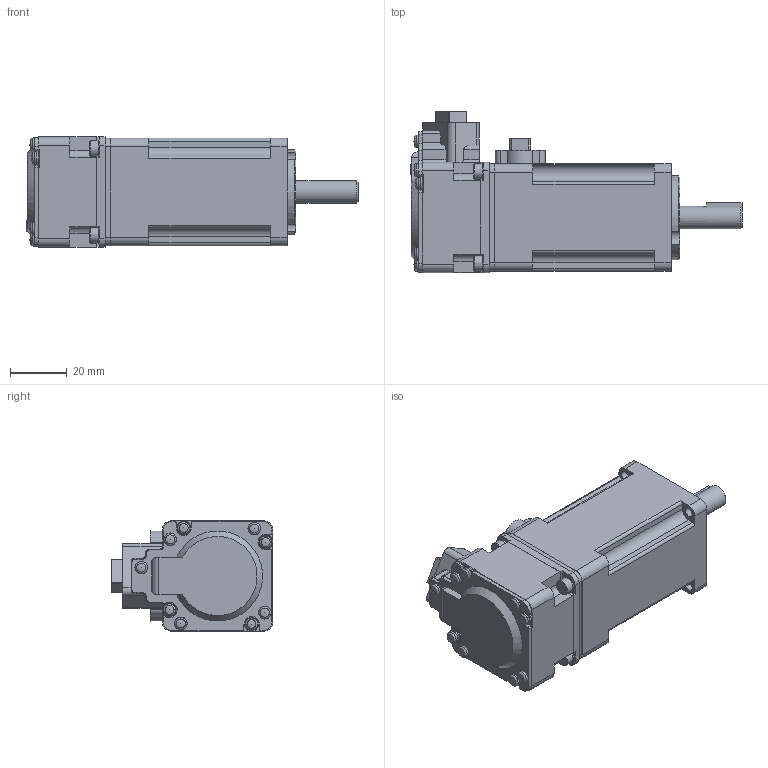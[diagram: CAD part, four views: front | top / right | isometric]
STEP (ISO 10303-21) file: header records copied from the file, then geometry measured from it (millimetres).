
FILE_DESCRIPTION( ( 'STEP AP214' ), ' ' );
FILE_NAME( 'p:/temp/worker_261/1028_4324/app_51_12016081613261447744796260eae72_000000_00_00_000000/format_0/MSMF012L1U1.stp', '2016-08-16T11:26:15', ( '' ), ( '' ), ' ', 'PARTsolutions', ' ' );
FILE_SCHEMA( ( 'AUTOMOTIVE_DESIGN { 1 0 10303 214 1 1 1 1 }' ) );
Length unit declared in the file: millimetre
Products named in the file (2): MSMF012L1U1; _MSME011G1U(1)
Assembly tree (1 placements, depth 2):
  MSMF012L1U1
    _MSME011G1U(1)
Bounding box: 117.5 x 57.1 x 39 mm (x, y, z)
Volume: 135072.8 mm3; surface area: 23675.8 mm2
Topology: 1 solids, 1 shells, 578 faces, 1519 edges, 995 vertices
Faces by surface type: plane 348, cylinder 186, cone 24, bspline 11, torus 9
Full cylindrical faces by diameter (mm): 2.3 x4, 2.459 x1, 2.7 x4, 3.4 x4, 4.8 x4, 5 x7, 5.35 x1, 5.5 x9, 5.6 x4, 6 x2, 8 x1, 10.5 x1
Entity records: 22220 total; most frequent: CARTESIAN_POINT 3385, DIRECTION 2951, ORIENTED_EDGE 2826, EDGE_CURVE 1413, AXIS2_PLACEMENT_3D 986, VERTEX_POINT 982, LINE 979, VECTOR 979
